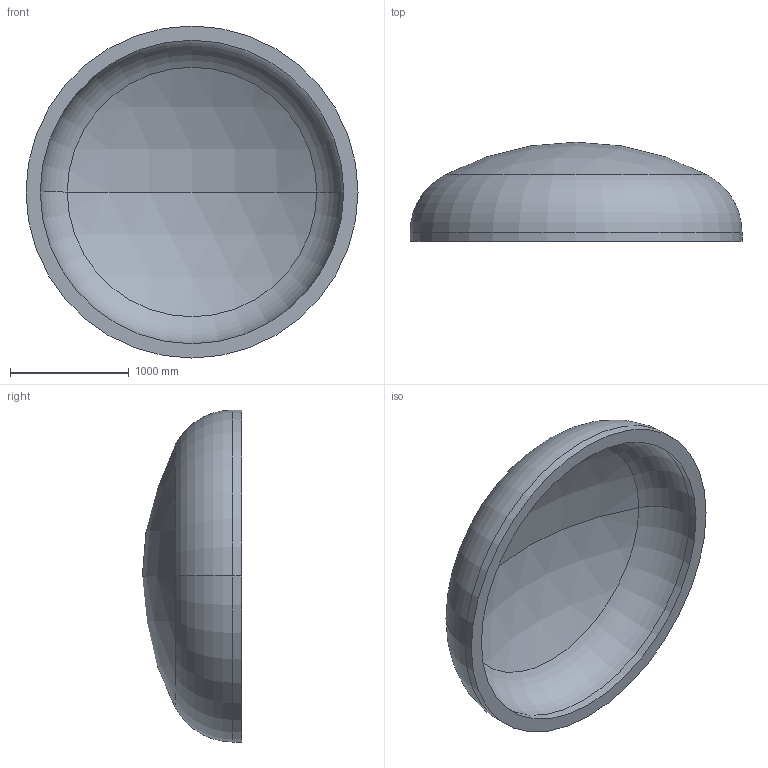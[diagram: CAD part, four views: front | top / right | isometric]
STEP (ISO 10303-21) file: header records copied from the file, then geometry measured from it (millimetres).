
FILE_DESCRIPTION (( 'STEP AP203' ), '1' );
FILE_NAME ('DIN 28013 Korbbogenform_-_Boden DIN 28013 - 2800 x 75 - I - s=120.step', '2016-07-01T17:23:42', ( '' ), ( '' ), 'SwSTEP 2.0', 'SolidWorks 2013', '' );
FILE_SCHEMA (( 'CONFIG_CONTROL_DESIGN' ));
Length unit declared in the file: millimetre
Products named in the file (1): DIN 28013 Korbbogenform_-_Boden DIN 28013 - 2800 x 75 - I - s=120
Bounding box: 2800 x 837 x 2800 mm (x, y, z)
Volume: 1043445457.9 mm3; surface area: 18431247.8 mm2
Topology: 1 solids, 1 shells, 13 faces, 24 edges, 14 vertices
Faces by surface type: torus 4, cylinder 4, sphere 4, plane 1
Entity records: 407 total; most frequent: DIRECTION 72, CARTESIAN_POINT 52, ORIENTED_EDGE 48, AXIS2_PLACEMENT_3D 34, EDGE_CURVE 24, CIRCLE 20, VERTEX_POINT 14, EDGE_LOOP 14
